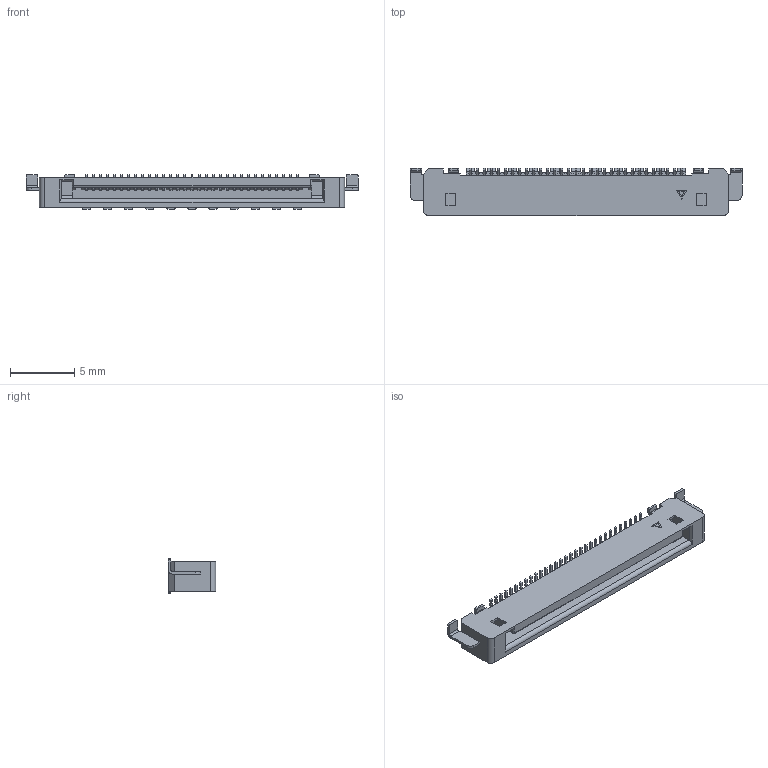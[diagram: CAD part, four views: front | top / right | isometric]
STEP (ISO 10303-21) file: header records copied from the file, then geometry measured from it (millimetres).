
FILE_DESCRIPTION(('Creo Elements/Direct Modeling STEP Export'),'2;1');
FILE_NAME('P3E146_TSL00-31S.stp','2022-02-04T16:22:26',(''),(''),'Creo Elements/Direct Modeling STEP processor for AP214 (Solid Model)','Creo Elements/Direct Modeling 20.2 28-Feb-2019 (C) Parametric Technology GmbH','');
FILE_SCHEMA(('AUTOMOTIVE_DESIGN { 1 0 10303 214 1 1 1 1 }'));
Length unit declared in the file: millimetre
Products named in the file (2): P3E146_TSL00-31S
Assembly tree (1 placements, depth 2):
  P3E146_TSL00-31S
    P3E146_TSL00-31S
Bounding box: 25.92 x 3.7 x 2.72 mm (x, y, z)
Volume: 151.9 mm3; surface area: 440.3 mm2
Topology: 1 solids, 1 shells, 1273 faces, 3466 edges, 2232 vertices
Faces by surface type: plane 993, cylinder 278, sphere 2
Entity records: 39795 total; most frequent: CARTESIAN_POINT 7231, ORIENTED_EDGE 6928, DIRECTION 6554, EDGE_CURVE 3464, VECTOR 2844, LINE 2844, VERTEX_POINT 2232, AXIS2_PLACEMENT_3D 1855
